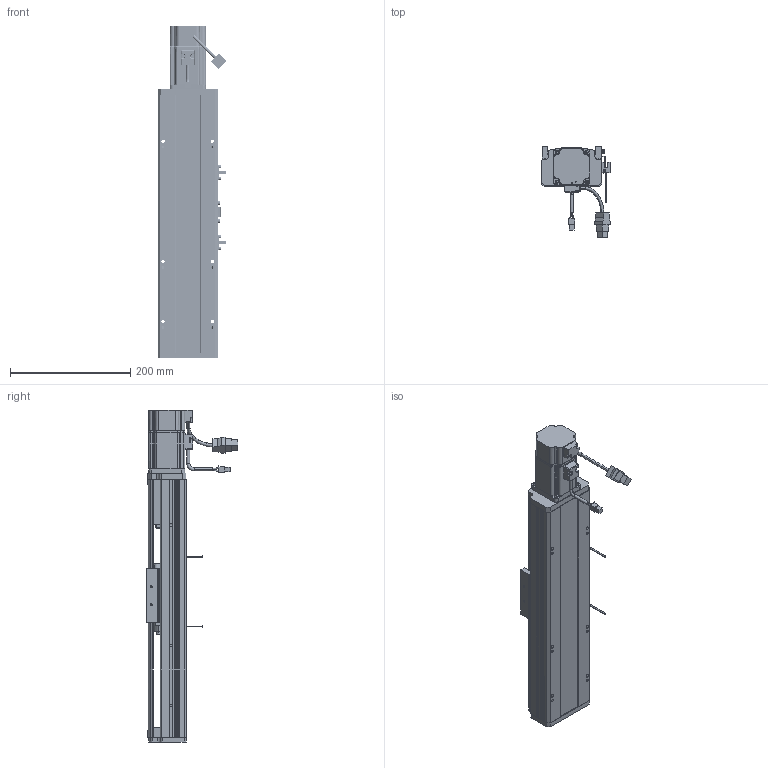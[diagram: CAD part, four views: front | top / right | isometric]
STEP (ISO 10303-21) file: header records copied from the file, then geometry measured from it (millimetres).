
FILE_DESCRIPTION (( 'STEP AP214' ), '1' );
FILE_NAME ('CTH10-200.STEP', '2019-11-18T08:28:35', ( '微软用户' ), ( '微软中国' ), 'SwSTEP 2.0', 'SolidWorks 2017', '' );
FILE_SCHEMA (( 'AUTOMOTIVE_DESIGN' ));
Length unit declared in the file: millimetre
Products named in the file (34): CTH10-200; CTH10-底座_默认<按加工>; CTH10-移动座_默认<按加工>; CTH10-蹟簽蟀諉啣; CTH10-盓傅釱; CTH10-傷啣; CTH10-侜督萇儂啣; SFH1605-288; SFH1605; CTH10-盖板_默认<按加工>; 怢湛200W侜督萇儂ECMA-CX0602ES; CTH10-粣創釱; BEARING_BaseModel20190604090351; 7001-DF; 粣創揤啣; COL12B-粣遠; 坶踡蹟譫; M4-L8囀鞠褒蹟佪; M3-L10囀鞠褒蹟佪; CTH10粣創釱蚾饜极; M5-L20囀鞠褒蹟佪; 遣喳蝶15x12x8; 6000Z粣創; M4-L6半圆头内六角螺丝; EE-SX672; M3-L8囀鞠褒蹟佪; 100耀郪-覜茼んえ; MGN12C; MGN12C-R1; MGN12C-2R420-Z0CHC; 噩砃M3-L10囀鞠褒蹟佪; 噩砃MGN12C; 噩砃MGN12C-R1; 噩砃MGN12C-2R420-Z0CHC
Assembly tree (100 placements, depth 4):
  CTH10-200
    CTH10-底座_默认<按加工>
    CTH10-移动座_默认<按加工>
    CTH10-蹟簽蟀諉啣
    CTH10-盓傅釱
    CTH10-傷啣
    CTH10-侜督萇儂啣
    SFH1605-288
    SFH1605
    CTH10-盖板_默认<按加工>
    怢湛200W侜督萇儂ECMA-CX0602ES
    CTH10粣創釱蚾饜极
      CTH10-粣創釱
      7001-DF
        BEARING_BaseModel20190604090351  x2
      粣創揤啣
      COL12B-粣遠  x2
      坶踡蹟譫
      M4-L8囀鞠褒蹟佪  x4
      M3-L10囀鞠褒蹟佪  x6
    M3-L10囀鞠褒蹟佪  x19
    M5-L20囀鞠褒蹟佪  x4
    遣喳蝶15x12x8  x3
    6000Z粣創
    M4-L6半圆头内六角螺丝  x4
    M4-L8囀鞠褒蹟佪  x8
    EE-SX672  x2
    M3-L8囀鞠褒蹟佪  x4
    100耀郪-覜茼んえ
    MGN12C-2R420-Z0CHC
      MGN12C
      MGN12C-R1  x2
      M3-L10囀鞠褒蹟佪  x8
    噩砃M3-L10囀鞠褒蹟佪
    噩砃MGN12C-2R420-Z0CHC
      噩砃MGN12C
      噩砃MGN12C-R1  x2
      噩砃M3-L10囀鞠褒蹟佪  x8
Bounding box: 114.24 x 151.37 x 552 mm (x, y, z)
Volume: 1649279.7 mm3; surface area: 572828.2 mm2
Topology: 96 solids, 105 shells, 4369 faces, 10902 edges, 6778 vertices
Faces by surface type: plane 2274, cylinder 1208, cone 601, bspline 241, torus 33, sphere 12
Entity records: 87274 total; most frequent: CARTESIAN_POINT 26814, ORIENTED_EDGE 12308, DIRECTION 11653, EDGE_CURVE 6154, AXIS2_PLACEMENT_3D 4066, VERTEX_POINT 3992, LINE 3521, VECTOR 3521
